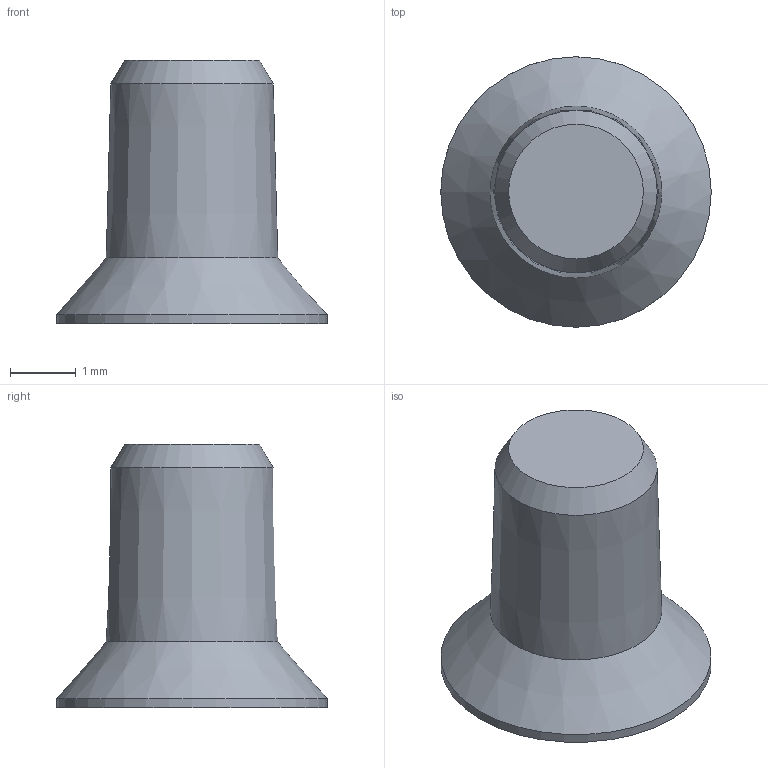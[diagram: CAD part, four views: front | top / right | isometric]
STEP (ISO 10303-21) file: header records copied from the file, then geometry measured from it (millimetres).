
FILE_DESCRIPTION(/* description */ ('Unknown'),/* implementation_level */ '2;1');
FILE_NAME(/* name */ '023-70H-03',/* time_stamp */ '2024-04-22T08:50:43+02:00',/* author */ ('Unknown'),/* organization */ ('Unknown'),/* preprocessor_version */ 'ST-DEVELOPER v16.7',/* originating_system */ 'Solid Edge',/* authorisation */ 'Unknown');
FILE_SCHEMA (('AUTOMOTIVE_DESIGN {1 0 10303 214 3 1 1}'));
Length unit declared in the file: millimetre
Products named in the file (1): 023-70H-03
Bounding box: 4.1 x 4.1 x 4 mm (x, y, z)
Volume: 23.1 mm3; surface area: 59.1 mm2
Topology: 1 solids, 1 shells, 23 faces, 60 edges, 40 vertices
Faces by surface type: plane 15, cylinder 5, cone 3
Full cylindrical faces by diameter (mm): 4.1 x1
Entity records: 697 total; most frequent: CARTESIAN_POINT 124, DIRECTION 112, ORIENTED_EDGE 106, EDGE_CURVE 53, LINE 40, VECTOR 40, VERTEX_POINT 37, AXIS2_PLACEMENT_3D 36
